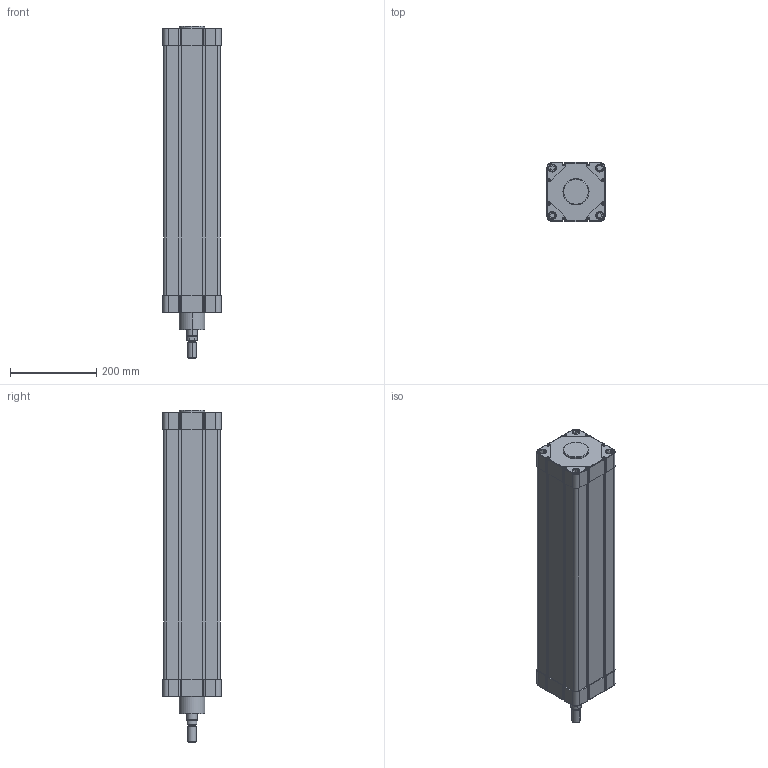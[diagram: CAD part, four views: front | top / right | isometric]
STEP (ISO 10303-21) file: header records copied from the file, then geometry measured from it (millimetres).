
FILE_DESCRIPTION((''),'2;1');
FILE_NAME('N11M21250500.stp','2010-01-06T22:07:25',('B. Petkovic 2010'),('AZ PNEUMATICA S.r.l.'),'Mechanical Desktop 2006','Mechanical Desktop 2006','Via Marco Biagi 6, I-20020 Misinto(MI) Italy, azpneu@tin.it');
FILE_SCHEMA(('CONFIG_CONTROL_DESIGN'));
Length unit declared in the file: millimetre
Products named in the file (2): N11M21000500; CILINDAR
Assembly tree (1 placements, depth 2):
  N11M21000500
    CILINDAR
Bounding box: 136 x 136 x 770 mm (x, y, z)
Volume: 11479890.5 mm3; surface area: 483806.5 mm2
Topology: 1 solids, 1 shells, 686 faces, 1761 edges, 1120 vertices
Faces by surface type: cylinder 316, plane 290, torus 40, bspline 36, cone 4
Entity records: 22562 total; most frequent: CARTESIAN_POINT 5253, DIRECTION 3833, ORIENTED_EDGE 3522, EDGE_CURVE 1761, AXIS2_PLACEMENT_3D 1424, VERTEX_POINT 1120, VECTOR 985, LINE 985
